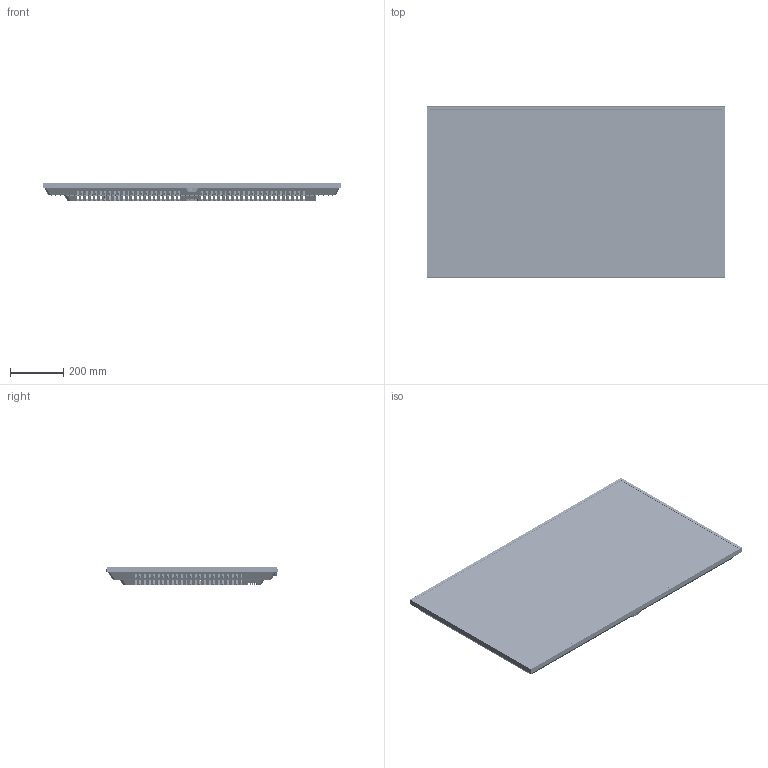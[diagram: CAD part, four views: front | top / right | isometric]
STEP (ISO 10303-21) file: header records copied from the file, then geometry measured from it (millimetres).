
FILE_DESCRIPTION((''),'2;1');
FILE_NAME('00-50DS50_ASM_ASM','2025-02-05T16:22:13',('wancheng1.liu'),(''),'CREO PARAMETRIC BY PTC INC, 2021023','CREO PARAMETRIC BY PTC INC, 2021023','');
FILE_SCHEMA(('CONFIG_CONTROL_DESIGN','SHAPE_APPEARANCE_LAYERS_GROUPS'));
Products named in the file (30): SG4951D02-1-TCON_2; OPENCELL_SG4951D02-1__SW0001_2; SG4951D02-1_ASM_3_ASM; 02-50DS50-OC_ASM_5_ASM; 55-50DS50-0XX-FRONT_4; 02-50DS50-FC_ASM_5_ASM; 01-50DS50-LCM_ASM_2_ASM; 55-RPZ5A0-00; 03-50DS50-BACK-COVER_ASM_6_ASM; 02-50DS50-BC_ASM_2_ASM; ZHUANGJIEZHU1_2; ZHUANGJIEZHU2_2; PCB_BOARD_4_5_2; AUSB0353-P004A_3D_4_4_1_1_3_1_2; PCB_MAIN-HDMI-IAF05_19613T1-CGE; PCB_MAIN-USB20_3_2; 10402ZZZZ000056_1_1_2; 56-AVZ5A0-4UYH_6_2; XM-M9679-E-1_ASM_8_ASM_2_ASM; XM-M9679-E-1_ASM_ASM_2_ASM; PCB_ASSY_ASM_1_ASM_4_ASM; 03-55-MAINBOARD_ASM_6_ASM; 02-55DS50-SSB_ASM_5_ASM; 02-50DS50-SSB_ASM_2_ASM; 02-50DS50-STD_ASM_2_ASM; 56-KSZ5A1-0HCH_2024-06-20_2; DS50_KEY_ASM_ASM_3_ASM; 01-50DS50-LCD_ASM_3_ASM; 00-50DS50_ASM_28_ASM; 00-50DS50_ASM_ASM
Assembly tree (33 placements, depth 11):
  00-50DS50_ASM_ASM
    00-50DS50_ASM_28_ASM
      01-50DS50-LCM_ASM_2_ASM
        02-50DS50-OC_ASM_5_ASM
          SG4951D02-1_ASM_3_ASM
            SG4951D02-1-TCON_2
            OPENCELL_SG4951D02-1__SW0001_2
        02-50DS50-FC_ASM_5_ASM
          55-50DS50-0XX-FRONT_4
      01-50DS50-LCD_ASM_3_ASM
        02-50DS50-BC_ASM_2_ASM
          03-50DS50-BACK-COVER_ASM_6_ASM
            55-RPZ5A0-00
        02-50DS50-STD_ASM_2_ASM
          02-50DS50-SSB_ASM_2_ASM
            02-55DS50-SSB_ASM_5_ASM
              03-55-MAINBOARD_ASM_6_ASM
                PCB_ASSY_ASM_1_ASM_4_ASM
                  ZHUANGJIEZHU1_2  x2
                  ZHUANGJIEZHU2_2  x2
                  XM-M9679-E-1_ASM_ASM_2_ASM
        DS50_KEY_ASM_ASM_3_ASM
          56-KSZ5A1-0HCH_2024-06-20_2
Bounding box: 1123.35 x 643.91 x 68.5 mm (x, y, z)
Volume: 3128377.5 mm3; surface area: 3542151.3 mm2
Topology: 122 solids, 123 shells, 28294 faces, 90366 edges, 58908 vertices
Faces by surface type: plane 21611, cylinder 5770, extrusion 445, bspline 164, torus 144, cone 142, sphere 18
Entity records: 947108 total; most frequent: CARTESIAN_POINT 206546, ORIENTED_EDGE 168526, DIRECTION 129683, EDGE_CURVE 84263, VECTOR 71049, LINE 70604, VERTEX_POINT 55019, EDGE_LOOP 30412
